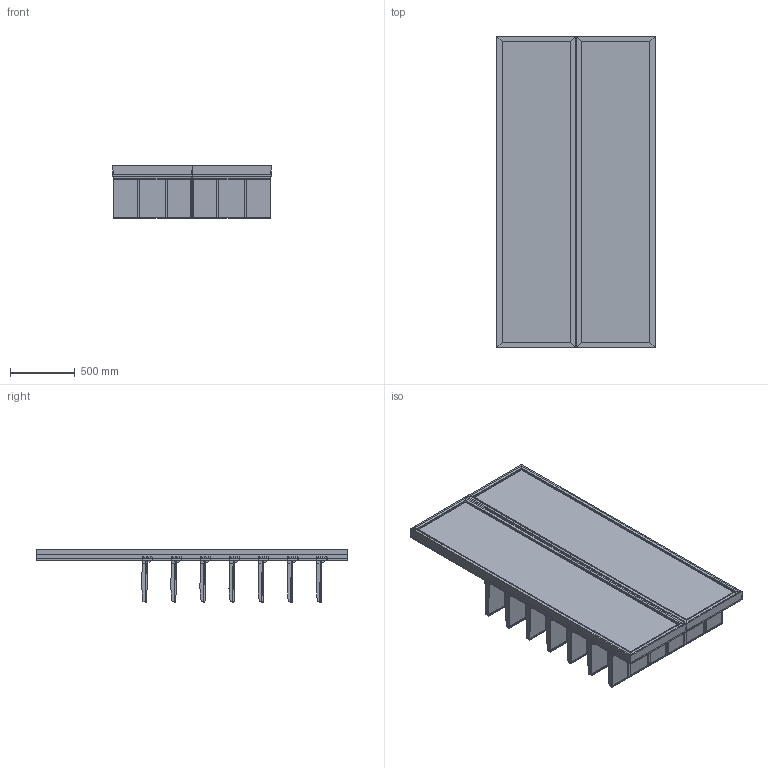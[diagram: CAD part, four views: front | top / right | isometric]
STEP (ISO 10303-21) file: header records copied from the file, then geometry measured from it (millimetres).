
FILE_DESCRIPTION (( 'STEP AP203' ), '1' );
FILE_NAME ('2m Double Hat & Cap Merchandising Wall.STEP', '2026-03-31T14:24:09', ( '' ), ( '' ), 'SwSTEP 2.0', 'SolidWorks 2025', '' );
FILE_SCHEMA (( 'CONFIG_CONTROL_DESIGN' ));
Length unit declared in the file: millimetre
Products named in the file (13): 365-01-03_默认; 2m Double Hat & Cap Merchandising Wall; 365-01-02_默认; 365-01-04_默认; 365-01-06_默认; 365-01-GA01_2; 365-01-05_默认; 365-01-08_默认; 365-01-10_默认; 365-01-01_默认; Single Illuminated Cap & Hat Retail Display_Assem5; 365-01-07_默认; 0001-31-GA01 - 610W Slotted Upright
Assembly tree (23 placements, depth 4):
  2m Double Hat & Cap Merchandising Wall
    Single Illuminated Cap & Hat Retail Display_Assem5  x2
      0001-31-GA01 - 610W Slotted Upright
      365-01-GA01_2
        365-01-01_默认
        365-01-02_默认  x2
        365-01-03_默认  x2
        365-01-04_默认
        365-01-05_默认  x2
        365-01-06_默认
        365-01-07_默认
        365-01-08_默认  x2
        365-01-10_默认
Bounding box: 1219.5 x 2400 x 403.53 mm (x, y, z)
Volume: 19067446.5 mm3; surface area: 27020590.6 mm2
Topology: 194 solids, 194 shells, 4112 faces, 11056 edges, 7184 vertices
Faces by surface type: plane 3092, cylinder 964, bspline 56
Entity records: 21252 total; most frequent: CARTESIAN_POINT 4018, ORIENTED_EDGE 3502, DIRECTION 2871, EDGE_CURVE 1751, VECTOR 1577, LINE 1577, VERTEX_POINT 1154, AXIS2_PLACEMENT_3D 647
